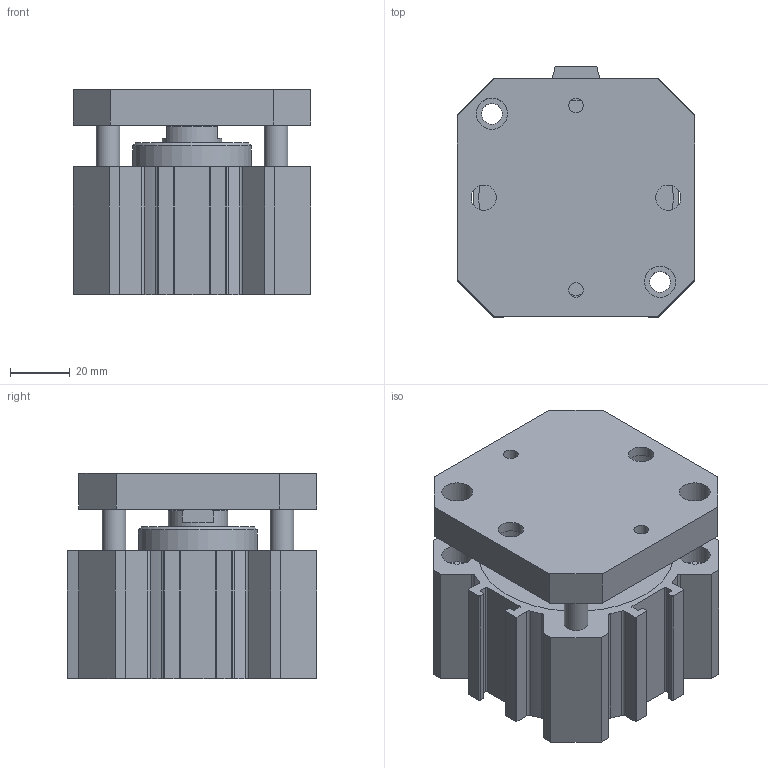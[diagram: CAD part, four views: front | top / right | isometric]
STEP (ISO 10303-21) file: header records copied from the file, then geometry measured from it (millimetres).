
FILE_DESCRIPTION(/* description */ ('TUBO PROFILATO COMPATTI Ø40'),/* implementation_level */ '2;1');
FILE_NAME(/* name */ 'I:\Area Tecnica\Disegni\VARIE-3D\Componenti\1500\Ø63\15##_63_####_#\1501_63_0005_AR.stp',/* time_stamp */ '2016-08-24T13:51:39+02:00',/* author */ ('Maniean1'),/* organization */ ('Pneumax S.p.A.'),/* preprocessor_version */ 'ST-DEVELOPER v15.2',/* originating_system */ 'Autodesk Inventor 2014',/* authorisation */ '');
FILE_SCHEMA (('AUTOMOTIVE_DESIGN { 1 0 10303 214 3 1 1 }'));
Length unit declared in the file: millimetre
Products named in the file (3): C_1501_63_0005_AR; S_1501_63_0005_AR; 1501_63_0005_AR
Bounding box: 80 x 84 x 69 mm (x, y, z)
Volume: 281691 mm3; surface area: 75466.1 mm2
Topology: 2 solids, 2 shells, 185 faces, 481 edges, 322 vertices
Faces by surface type: plane 94, cylinder 86, cone 5
Full cylindrical faces by diameter (mm): 4.917 x2, 7 x4, 8 x4, 8.5 x2, 8.566 x2, 10.5 x8, 13.5 x2, 20 x2, 40 x2, 63 x2, 65.5 x2
Entity records: 5739 total; most frequent: DIRECTION 994, CARTESIAN_POINT 950, ORIENTED_EDGE 876, EDGE_CURVE 438, AXIS2_PLACEMENT_3D 370, VERTEX_POINT 314, EDGE_LOOP 262, LINE 254
